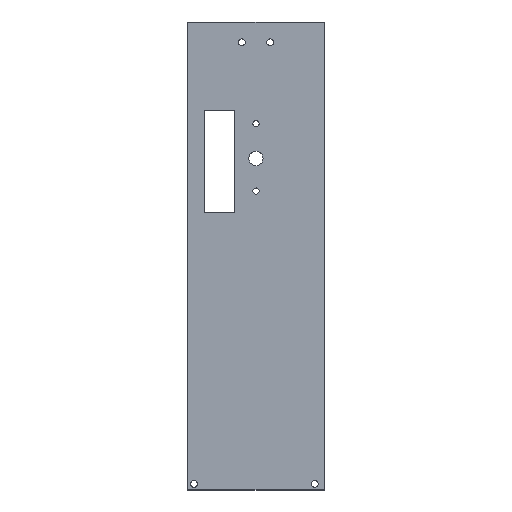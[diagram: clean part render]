
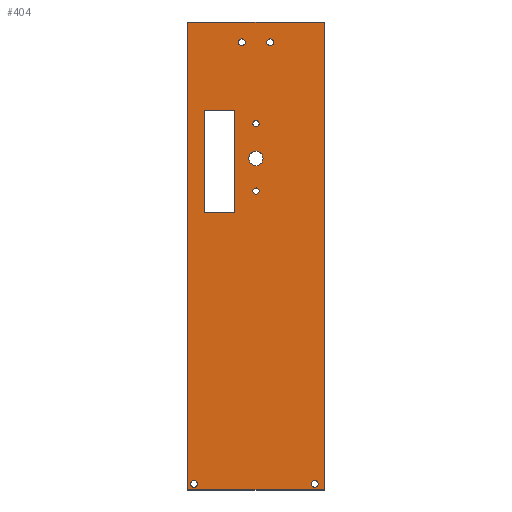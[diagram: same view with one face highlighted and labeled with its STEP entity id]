
A CAD part, top view. The second image highlights one B-rep face of the part: STEP entity #404.
In plain terms, the highlighted planar face has unit normal (0, 0, 1).
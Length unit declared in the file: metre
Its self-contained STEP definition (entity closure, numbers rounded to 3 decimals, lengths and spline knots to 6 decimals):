
#19=CIRCLE('',#440,0.00165);
#20=CIRCLE('',#441,0.00165);
#21=CIRCLE('',#442,0.0017);
#22=CIRCLE('',#443,0.0017);
#23=CIRCLE('',#444,0.0035);
#24=CIRCLE('',#445,0.0015);
#25=CIRCLE('',#446,0.0015);
#49=ORIENTED_EDGE('',*,*,#145,.F.);
#50=ORIENTED_EDGE('',*,*,#146,.F.);
#51=ORIENTED_EDGE('',*,*,#147,.F.);
#52=ORIENTED_EDGE('',*,*,#148,.T.);
#53=ORIENTED_EDGE('',*,*,#149,.T.);
#54=ORIENTED_EDGE('',*,*,#150,.F.);
#55=ORIENTED_EDGE('',*,*,#151,.F.);
#56=ORIENTED_EDGE('',*,*,#152,.F.);
#57=ORIENTED_EDGE('',*,*,#153,.F.);
#58=ORIENTED_EDGE('',*,*,#154,.F.);
#59=ORIENTED_EDGE('',*,*,#155,.F.);
#60=ORIENTED_EDGE('',*,*,#135,.F.);
#61=ORIENTED_EDGE('',*,*,#139,.T.);
#62=ORIENTED_EDGE('',*,*,#142,.T.);
#63=ORIENTED_EDGE('',*,*,#144,.F.);
#135=EDGE_CURVE('',#185,#186,#223,.T.);
#139=EDGE_CURVE('',#185,#188,#227,.T.);
#142=EDGE_CURVE('',#188,#190,#230,.T.);
#144=EDGE_CURVE('',#186,#190,#232,.T.);
#145=EDGE_CURVE('',#191,#191,#19,.T.);
#146=EDGE_CURVE('',#192,#192,#20,.T.);
#147=EDGE_CURVE('',#193,#194,#233,.T.);
#148=EDGE_CURVE('',#193,#195,#234,.T.);
#149=EDGE_CURVE('',#195,#196,#235,.T.);
#150=EDGE_CURVE('',#194,#196,#236,.T.);
#151=EDGE_CURVE('',#197,#197,#21,.T.);
#152=EDGE_CURVE('',#198,#198,#22,.T.);
#153=EDGE_CURVE('',#199,#199,#23,.T.);
#154=EDGE_CURVE('',#200,#200,#24,.T.);
#155=EDGE_CURVE('',#201,#201,#25,.T.);
#185=VERTEX_POINT('',#587);
#186=VERTEX_POINT('',#589);
#188=VERTEX_POINT('',#595);
#190=VERTEX_POINT('',#601);
#191=VERTEX_POINT('',#608);
#192=VERTEX_POINT('',#610);
#193=VERTEX_POINT('',#612);
#194=VERTEX_POINT('',#613);
#195=VERTEX_POINT('',#615);
#196=VERTEX_POINT('',#617);
#197=VERTEX_POINT('',#620);
#198=VERTEX_POINT('',#622);
#199=VERTEX_POINT('',#624);
#200=VERTEX_POINT('',#626);
#201=VERTEX_POINT('',#628);
#223=LINE('',#588,#259);
#227=LINE('',#596,#263);
#230=LINE('',#602,#266);
#232=LINE('',#605,#268);
#233=LINE('',#611,#269);
#234=LINE('',#614,#270);
#235=LINE('',#616,#271);
#236=LINE('',#618,#272);
#259=VECTOR('',#477,1.);
#263=VECTOR('',#483,1.);
#266=VECTOR('',#488,1.);
#268=VECTOR('',#492,1.);
#269=VECTOR('',#499,1.);
#270=VECTOR('',#500,1.);
#271=VECTOR('',#501,1.);
#272=VECTOR('',#502,1.);
#297=EDGE_LOOP('',(#49));
#298=EDGE_LOOP('',(#50));
#299=EDGE_LOOP('',(#51,#52,#53,#54));
#300=EDGE_LOOP('',(#55));
#301=EDGE_LOOP('',(#56));
#302=EDGE_LOOP('',(#57));
#303=EDGE_LOOP('',(#58));
#304=EDGE_LOOP('',(#59));
#305=EDGE_LOOP('',(#60,#61,#62,#63));
#343=FACE_BOUND('',#297,.T.);
#344=FACE_BOUND('',#298,.T.);
#345=FACE_BOUND('',#299,.T.);
#346=FACE_BOUND('',#300,.T.);
#347=FACE_BOUND('',#301,.T.);
#348=FACE_BOUND('',#302,.T.);
#349=FACE_BOUND('',#303,.T.);
#350=FACE_BOUND('',#304,.T.);
#351=FACE_BOUND('',#305,.T.);
#389=PLANE('',#439);
#404=ADVANCED_FACE('',(#343,#344,#345,#346,#347,#348,#349,#350,#351),#389,
 .T.);
#439=AXIS2_PLACEMENT_3D('',#606,#493,#494);
#440=AXIS2_PLACEMENT_3D('',#607,#495,#496);
#441=AXIS2_PLACEMENT_3D('',#609,#497,#498);
#442=AXIS2_PLACEMENT_3D('',#619,#503,#504);
#443=AXIS2_PLACEMENT_3D('',#621,#505,#506);
#444=AXIS2_PLACEMENT_3D('',#623,#507,#508);
#445=AXIS2_PLACEMENT_3D('',#625,#509,#510);
#446=AXIS2_PLACEMENT_3D('',#627,#511,#512);
#477=DIRECTION('',(-1.,0.,0.));
#483=DIRECTION('',(0.,1.,0.));
#488=DIRECTION('',(-1.,0.,0.));
#492=DIRECTION('',(0.,1.,0.));
#493=DIRECTION('',(0.,0.,1.));
#494=DIRECTION('',(1.,0.,0.));
#495=DIRECTION('',(0.,0.,1.));
#496=DIRECTION('',(1.,0.,0.));
#497=DIRECTION('',(0.,0.,1.));
#498=DIRECTION('',(1.,0.,0.));
#499=DIRECTION('',(1.,0.,0.));
#500=DIRECTION('',(0.,1.,0.));
#501=DIRECTION('',(1.,0.,0.));
#502=DIRECTION('',(0.,1.,0.));
#503=DIRECTION('',(0.,0.,1.));
#504=DIRECTION('',(1.,0.,0.));
#505=DIRECTION('',(0.,0.,1.));
#506=DIRECTION('',(1.,0.,0.));
#507=DIRECTION('',(0.,0.,1.));
#508=DIRECTION('',(1.,0.,0.));
#509=DIRECTION('',(0.,0.,1.));
#510=DIRECTION('',(1.,0.,0.));
#511=DIRECTION('',(0.,0.,1.));
#512=DIRECTION('',(1.,0.,0.));
#587=CARTESIAN_POINT('',(0.186126,0.100333,0.0035));
#588=CARTESIAN_POINT('',(0.152626,0.100333,0.0035));
#589=CARTESIAN_POINT('',(0.119126,0.100333,0.0035));
#595=CARTESIAN_POINT('',(0.186126,0.330333,0.0035));
#596=CARTESIAN_POINT('',(0.186126,0.215333,0.0035));
#601=CARTESIAN_POINT('',(0.119126,0.330333,0.0035));
#602=CARTESIAN_POINT('',(0.152626,0.330333,0.0035));
#605=CARTESIAN_POINT('',(0.119126,0.215333,0.0035));
#606=CARTESIAN_POINT('',(0.152626,0.215333,0.0035));
#607=CARTESIAN_POINT('',(0.122126,0.103333,0.0035));
#608=CARTESIAN_POINT('',(0.123776,0.103333,0.0035));
#609=CARTESIAN_POINT('',(0.181476,0.103333,0.0035));
#610=CARTESIAN_POINT('',(0.183126,0.103333,0.0035));
#611=CARTESIAN_POINT('',(0.134604,0.236847,0.0035));
#612=CARTESIAN_POINT('',(0.127104,0.236847,0.0035));
#613=CARTESIAN_POINT('',(0.142104,0.236847,0.0035));
#614=CARTESIAN_POINT('',(0.127104,0.261847,0.0035));
#615=CARTESIAN_POINT('',(0.127104,0.286847,0.0035));
#616=CARTESIAN_POINT('',(0.134604,0.286847,0.0035));
#617=CARTESIAN_POINT('',(0.142104,0.286847,0.0035));
#618=CARTESIAN_POINT('',(0.142104,0.261847,0.0035));
#619=CARTESIAN_POINT('',(0.145626,0.320333,0.0035));
#620=CARTESIAN_POINT('',(0.147326,0.320333,0.0035));
#621=CARTESIAN_POINT('',(0.159626,0.320333,0.0035));
#622=CARTESIAN_POINT('',(0.161326,0.320333,0.0035));
#623=CARTESIAN_POINT('',(0.152602,0.263272,0.0035));
#624=CARTESIAN_POINT('',(0.156102,0.263272,0.0035));
#625=CARTESIAN_POINT('',(0.152626,0.280333,0.0035));
#626=CARTESIAN_POINT('',(0.154126,0.280333,0.0035));
#627=CARTESIAN_POINT('',(0.152626,0.247272,0.0035));
#628=CARTESIAN_POINT('',(0.154126,0.247272,0.0035));
